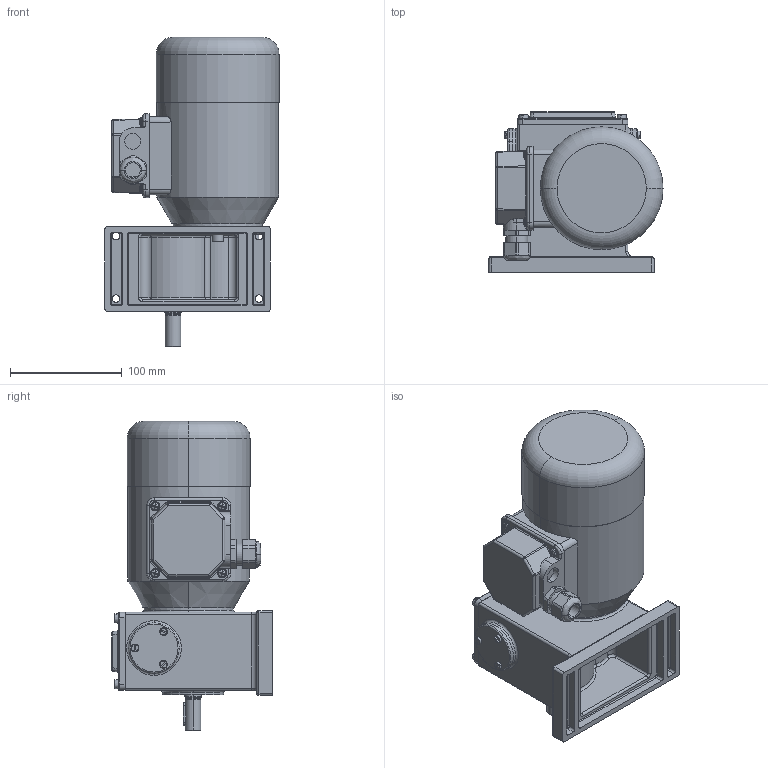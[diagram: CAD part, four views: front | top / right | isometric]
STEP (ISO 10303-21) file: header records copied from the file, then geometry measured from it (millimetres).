
FILE_DESCRIPTION (( 'STEP AP214' ), '1' );
FILE_NAME ('SN2_120W_2800Upm_Drehstrom-Motor.STEP', '2021-09-22T07:33:08', ( '' ), ( '' ), 'SwSTEP 2.0', 'SolidWorks 2019', '' );
FILE_SCHEMA (( 'AUTOMOTIVE_DESIGN' ));
Length unit declared in the file: millimetre
Products named in the file (13): 02F-D-006_3D_Export; NBR_WDR_15x35x7; SN2_3D_Export; 02-M-025 I 120W_2800Upm; SN2_120W_2800Upm_Drehstrom-Motor; 02-G-002_3D_Export; socket head cap screw_iso_ISO 4762 M6 x 20 - 20C; 02F-D-004_3D_Export; socket set screw flat point_iso_ISO 4026 - M6 x 30-C; slotted cheese head screw_iso_ISO 1207 - M4 x 12 - 12C; PF_A5x5x20; slotted cheese head screw_iso_ISO 1207 - M5 x 14 - 14C; 02F-W-001_3D_Export
Assembly tree (22 placements, depth 3):
  SN2_120W_2800Upm_Drehstrom-Motor
    SN2_3D_Export
      02-G-002_3D_Export
      02F-D-004_3D_Export
      02F-W-001_3D_Export
      NBR_WDR_15x35x7
      PF_A5x5x20
      02F-D-006_3D_Export  x2
      socket head cap screw_iso_ISO 4762 M6 x 20 - 20C  x2
      socket set screw flat point_iso_ISO 4026 - M6 x 30-C
      slotted cheese head screw_iso_ISO 1207 - M4 x 12 - 12C  x6
      slotted cheese head screw_iso_ISO 1207 - M5 x 14 - 14C  x4
    02-M-025 I 120W_2800Upm
Bounding box: 156 x 144 x 277 mm (x, y, z)
Volume: 2456917 mm3; surface area: 235524.1 mm2
Topology: 23 solids, 24 shells, 1017 faces, 2526 edges, 1580 vertices
Faces by surface type: plane 347, cylinder 318, cone 142, bspline 130, torus 78, sphere 2
Entity records: 30573 total; most frequent: CARTESIAN_POINT 9686, ORIENTED_EDGE 4312, DIRECTION 4033, EDGE_CURVE 2156, AXIS2_PLACEMENT_3D 1564, VERTEX_POINT 1367, EDGE_LOOP 965, VECTOR 905
